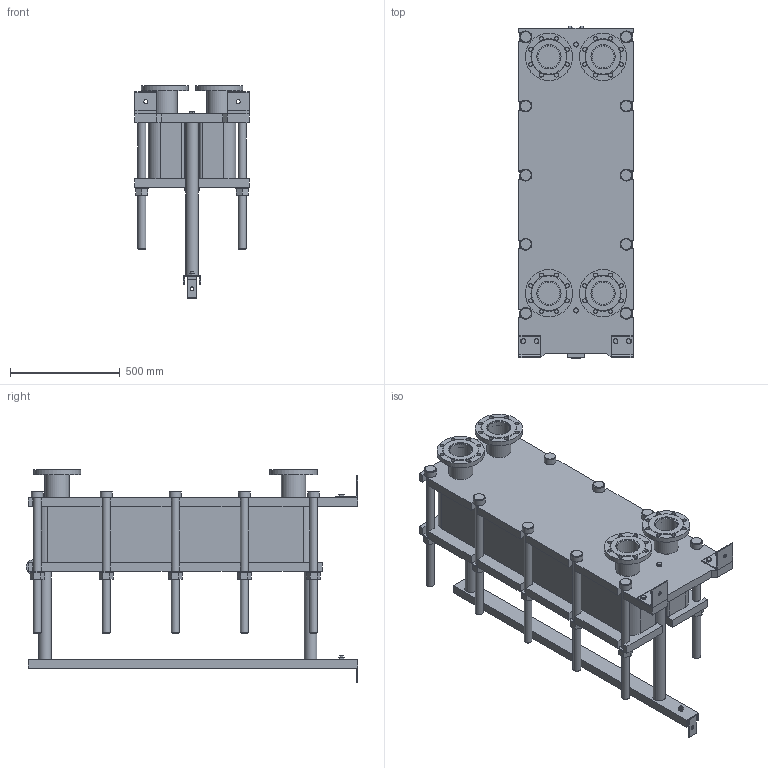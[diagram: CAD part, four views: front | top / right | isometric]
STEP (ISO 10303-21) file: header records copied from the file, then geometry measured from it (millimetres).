
FILE_DESCRIPTION(/* description */ (''),/* implementation_level */ '2;1');
FILE_NAME(/* name */ 'C:\Users\zhuro\Desktop\ENCO\TO\ЭН-04\ЭН-0,5-04-74-1.stp',/* time_stamp */ '2022-06-06T10:51:05+03:00',/* author */ ('zhuro'),/* organization */ (''),/* preprocessor_version */ 'ST-DEVELOPER v18.1',/* originating_system */ 'Autodesk Inventor 2022',/* authorisation */ '');
FILE_SCHEMA (('AUTOMOTIVE_DESIGN { 1 0 10303 214 3 1 1 }'));
Length unit declared in the file: millimetre
Products named in the file (1): ЭН-0,5-04-74-1
Bounding box: 520 x 1510 x 972 mm (x, y, z)
Volume: 197393951.6 mm3; surface area: 7783519.5 mm2
Topology: 45 solids, 45 shells, 668 faces, 1611 edges, 1048 vertices
Faces by surface type: plane 457, cylinder 166, cone 39, torus 6
Full cylindrical faces by diameter (mm): 8 x4, 10 x2, 16 x8, 18 x35, 36 x25, 40 x2, 42 x1, 45 x4, 54 x10, 57 x2, 60 x10, 68 x2, 100 x4, 110 x8, 215 x4
Entity records: 23607 total; most frequent: CARTESIAN_POINT 7348, DIRECTION 3371, ORIENTED_EDGE 3142, EDGE_CURVE 1571, AXIS2_PLACEMENT_3D 1199, VERTEX_POINT 1044, LINE 973, VECTOR 973
